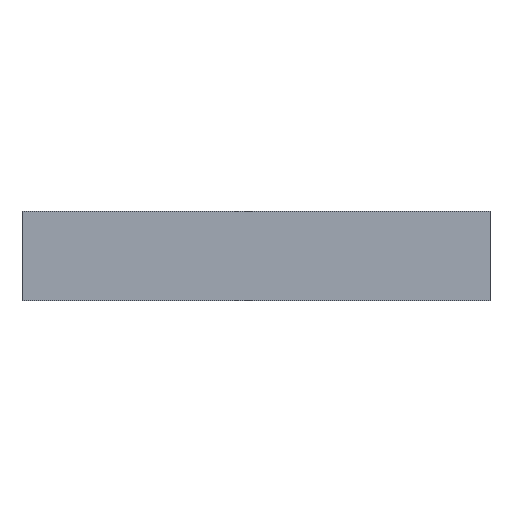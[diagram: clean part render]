
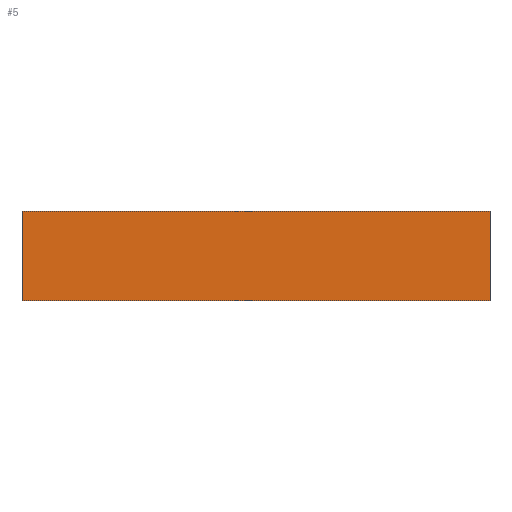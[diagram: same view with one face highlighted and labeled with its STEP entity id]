
A CAD part, top view. The second image highlights one B-rep face of the part: STEP entity #5.
In plain terms, the highlighted planar face has unit normal (0, 0, 1).
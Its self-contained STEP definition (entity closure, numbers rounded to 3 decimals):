
#5 = ADVANCED_FACE ( 'NONE', ( #34 ), #78, .F. ) ;
#7 = ORIENTED_EDGE ( 'NONE', *, *, #156, .T. ) ;
#10 = VECTOR ( 'NONE', #177, 1000. ) ;
#15 = ORIENTED_EDGE ( 'NONE', *, *, #162, .T. ) ;
#24 = ORIENTED_EDGE ( 'NONE', *, *, #154, .T. ) ;
#26 = EDGE_LOOP ( 'NONE', ( #7, #45, #15, #24 ) ) ;
#34 = FACE_OUTER_BOUND ( 'NONE', #26, .T. ) ;
#42 = LINE ( 'NONE', #175, #126 ) ;
#45 = ORIENTED_EDGE ( 'NONE', *, *, #161, .T. ) ;
#50 = VECTOR ( 'NONE', #184, 1000. ) ;
#52 = LINE ( 'NONE', #183, #50 ) ;
#58 = LINE ( 'NONE', #195, #68 ) ;
#66 = LINE ( 'NONE', #179, #10 ) ;
#68 = VECTOR ( 'NONE', #182, 1000. ) ;
#74 = CARTESIAN_POINT ( 'NONE',  ( -157.5, 30., 2. ) ) ;
#75 = DIRECTION ( 'NONE',  ( 0., 0., -1. ) ) ;
#78 = PLANE ( 'NONE',  #145 ) ;
#80 = VERTEX_POINT ( 'NONE', #104 ) ;
#86 = VERTEX_POINT ( 'NONE', #99 ) ;
#92 = CARTESIAN_POINT ( 'NONE',  ( -157.5, -30., 2. ) ) ;
#93 = DIRECTION ( 'NONE',  ( -1., 0., 0. ) ) ;
#98 = CARTESIAN_POINT ( 'NONE',  ( 157.5, -30., 2. ) ) ;
#99 = CARTESIAN_POINT ( 'NONE',  ( -157.5, 30., 2. ) ) ;
#104 = CARTESIAN_POINT ( 'NONE',  ( 157.5, 30., 2. ) ) ;
#105 = VERTEX_POINT ( 'NONE', #92 ) ;
#106 = VERTEX_POINT ( 'NONE', #98 ) ;
#126 = VECTOR ( 'NONE', #178, 1000. ) ;
#145 = AXIS2_PLACEMENT_3D ( 'NONE', #74, #75, #93 ) ;
#154 = EDGE_CURVE ( 'NONE', #80, #86, #52, .T. ) ;
#156 = EDGE_CURVE ( 'NONE', #86, #105, #58, .T. ) ;
#161 = EDGE_CURVE ( 'NONE', #105, #106, #66, .T. ) ;
#162 = EDGE_CURVE ( 'NONE', #106, #80, #42, .T. ) ;
#175 = CARTESIAN_POINT ( 'NONE',  ( 157.5, -30., 2. ) ) ;
#177 = DIRECTION ( 'NONE',  ( 1., 0., 0. ) ) ;
#178 = DIRECTION ( 'NONE',  ( 0., 1., 0. ) ) ;
#179 = CARTESIAN_POINT ( 'NONE',  ( -157.5, -30., 2. ) ) ;
#182 = DIRECTION ( 'NONE',  ( 0., -1., 0. ) ) ;
#183 = CARTESIAN_POINT ( 'NONE',  ( -157.5, 30., 2. ) ) ;
#184 = DIRECTION ( 'NONE',  ( -1., 0., 0. ) ) ;
#195 = CARTESIAN_POINT ( 'NONE',  ( -157.5, -30., 2. ) ) ;
